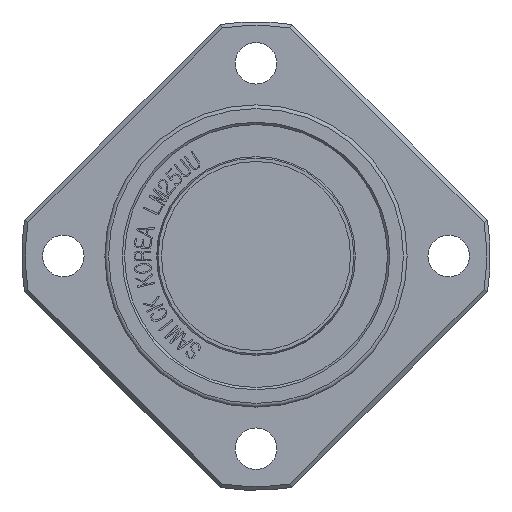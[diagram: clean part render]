
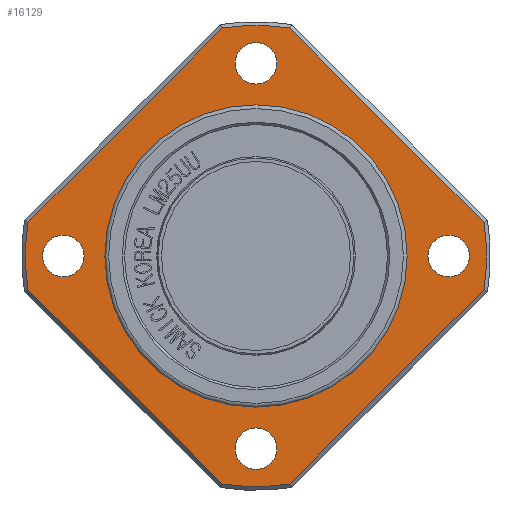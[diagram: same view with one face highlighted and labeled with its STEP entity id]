
A CAD part, front view. The second image highlights one B-rep face of the part: STEP entity #16129.
In plain terms, the highlighted planar face has unit normal (0, -1, 0).
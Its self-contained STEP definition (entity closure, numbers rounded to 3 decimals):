
#2283=FACE_BOUND('',#3334,.T.);
#2284=FACE_BOUND('',#3335,.T.);
#2285=FACE_BOUND('',#3336,.T.);
#2286=FACE_BOUND('',#3337,.T.);
#2287=FACE_BOUND('',#3338,.T.);
#2347=CIRCLE('',#17042,30.5);
#2348=CIRCLE('',#17043,30.5);
#2349=CIRCLE('',#17044,30.5);
#2350=CIRCLE('',#17045,30.5);
#2351=CIRCLE('',#17046,20.);
#2352=CIRCLE('',#17047,20.);
#2353=CIRCLE('',#17048,2.75);
#2354=CIRCLE('',#17049,2.75);
#2355=CIRCLE('',#17050,2.75);
#2356=CIRCLE('',#17051,2.75);
#2443=FACE_OUTER_BOUND('',#3333,.T.);
#3333=EDGE_LOOP('',(#10875,#10876,#10877,#10878,#10879,#10880,#10881,#10882));
#3334=EDGE_LOOP('',(#10883,#10884));
#3335=EDGE_LOOP('',(#10885));
#3336=EDGE_LOOP('',(#10886));
#3337=EDGE_LOOP('',(#10887));
#3338=EDGE_LOOP('',(#10888));
#4286=LINE('',#19339,#5474);
#4287=LINE('',#19347,#5475);
#4288=LINE('',#19351,#5476);
#4289=LINE('',#19355,#5477);
#5474=VECTOR('',#17414,10.);
#5475=VECTOR('',#17419,10.);
#5476=VECTOR('',#17422,10.);
#5477=VECTOR('',#17425,10.);
#6681=VERTEX_POINT('',#19334);
#6682=VERTEX_POINT('',#19338);
#6683=VERTEX_POINT('',#19344);
#6684=VERTEX_POINT('',#19346);
#6685=VERTEX_POINT('',#19348);
#6686=VERTEX_POINT('',#19350);
#6687=VERTEX_POINT('',#19352);
#6688=VERTEX_POINT('',#19354);
#6689=VERTEX_POINT('',#19357);
#6690=VERTEX_POINT('',#19358);
#6691=VERTEX_POINT('',#19361);
#6692=VERTEX_POINT('',#19363);
#6693=VERTEX_POINT('',#19365);
#6694=VERTEX_POINT('',#19367);
#8360=EDGE_CURVE('',#6681,#6682,#4286,.T.);
#8362=EDGE_CURVE('',#6681,#6683,#2347,.T.);
#8363=EDGE_CURVE('',#6684,#6683,#4287,.T.);
#8364=EDGE_CURVE('',#6684,#6685,#2348,.T.);
#8365=EDGE_CURVE('',#6686,#6685,#4288,.T.);
#8366=EDGE_CURVE('',#6686,#6687,#2349,.T.);
#8367=EDGE_CURVE('',#6688,#6687,#4289,.T.);
#8368=EDGE_CURVE('',#6688,#6682,#2350,.T.);
#8369=EDGE_CURVE('',#6689,#6690,#2351,.T.);
#8370=EDGE_CURVE('',#6690,#6689,#2352,.T.);
#8371=EDGE_CURVE('',#6691,#6691,#2353,.T.);
#8372=EDGE_CURVE('',#6692,#6692,#2354,.T.);
#8373=EDGE_CURVE('',#6693,#6693,#2355,.T.);
#8374=EDGE_CURVE('',#6694,#6694,#2356,.T.);
#10875=ORIENTED_EDGE('',*,*,#8360,.F.);
#10876=ORIENTED_EDGE('',*,*,#8362,.T.);
#10877=ORIENTED_EDGE('',*,*,#8363,.F.);
#10878=ORIENTED_EDGE('',*,*,#8364,.T.);
#10879=ORIENTED_EDGE('',*,*,#8365,.F.);
#10880=ORIENTED_EDGE('',*,*,#8366,.T.);
#10881=ORIENTED_EDGE('',*,*,#8367,.F.);
#10882=ORIENTED_EDGE('',*,*,#8368,.T.);
#10883=ORIENTED_EDGE('',*,*,#8369,.F.);
#10884=ORIENTED_EDGE('',*,*,#8370,.F.);
#10885=ORIENTED_EDGE('',*,*,#8371,.T.);
#10886=ORIENTED_EDGE('',*,*,#8372,.T.);
#10887=ORIENTED_EDGE('',*,*,#8373,.T.);
#10888=ORIENTED_EDGE('',*,*,#8374,.T.);
#15882=PLANE('',#17041);
#16129=ADVANCED_FACE('',(#2443,#2283,#2284,#2285,#2286,#2287),#15882,.T.);
#17041=AXIS2_PLACEMENT_3D('',#19343,#17415,#17416);
#17042=AXIS2_PLACEMENT_3D('',#19345,#17417,#17418);
#17043=AXIS2_PLACEMENT_3D('',#19349,#17420,#17421);
#17044=AXIS2_PLACEMENT_3D('',#19353,#17423,#17424);
#17045=AXIS2_PLACEMENT_3D('',#19356,#17426,#17427);
#17046=AXIS2_PLACEMENT_3D('',#19359,#17428,#17429);
#17047=AXIS2_PLACEMENT_3D('',#19360,#17430,#17431);
#17048=AXIS2_PLACEMENT_3D('',#19362,#17432,#17433);
#17049=AXIS2_PLACEMENT_3D('',#19364,#17434,#17435);
#17050=AXIS2_PLACEMENT_3D('',#19366,#17436,#17437);
#17051=AXIS2_PLACEMENT_3D('',#19368,#17438,#17439);
#17414=DIRECTION('',(-0.707,0.,-0.707));
#17415=DIRECTION('center_axis',(0.,-1.,0.));
#17416=DIRECTION('ref_axis',(0.,0.,-1.));
#17417=DIRECTION('center_axis',(0.,-1.,0.));
#17418=DIRECTION('ref_axis',(1.,0.,0.));
#17419=DIRECTION('',(0.707,0.,-0.707));
#17420=DIRECTION('center_axis',(0.,-1.,0.));
#17421=DIRECTION('ref_axis',(1.,0.,0.));
#17422=DIRECTION('',(0.707,0.,0.707));
#17423=DIRECTION('center_axis',(0.,-1.,0.));
#17424=DIRECTION('ref_axis',(1.,0.,0.));
#17425=DIRECTION('',(-0.707,0.,0.707));
#17426=DIRECTION('center_axis',(0.,-1.,0.));
#17427=DIRECTION('ref_axis',(1.,0.,0.));
#17428=DIRECTION('center_axis',(0.,-1.,0.));
#17429=DIRECTION('ref_axis',(1.,0.,0.));
#17430=DIRECTION('center_axis',(0.,-1.,0.));
#17431=DIRECTION('ref_axis',(1.,0.,0.));
#17432=DIRECTION('center_axis',(0.,1.,0.));
#17433=DIRECTION('ref_axis',(1.,0.,0.));
#17434=DIRECTION('center_axis',(0.,1.,0.));
#17435=DIRECTION('ref_axis',(0.,0.,
-1.));
#17436=DIRECTION('center_axis',(0.,1.,0.));
#17437=DIRECTION('ref_axis',(-1.,0.,0.));
#17438=DIRECTION('center_axis',(0.,1.,0.));
#17439=DIRECTION('ref_axis',(0.,0.,
1.));
#19334=CARTESIAN_POINT('',(30.169,21.,-4.479));
#19338=CARTESIAN_POINT('',(4.479,21.,-30.169));
#19339=CARTESIAN_POINT('',(15.843,21.,-18.805));
#19343=CARTESIAN_POINT('Origin',(20.,21.,0.));
#19344=CARTESIAN_POINT('',(30.169,21.,4.479));
#19345=CARTESIAN_POINT('Origin',(0.,21.,0.));
#19346=CARTESIAN_POINT('',(4.479,21.,30.169));
#19347=CARTESIAN_POINT('',(28.805,21.,5.843));
#19348=CARTESIAN_POINT('',(-4.479,21.,30.169));
#19349=CARTESIAN_POINT('Origin',(0.,21.,0.));
#19350=CARTESIAN_POINT('',(-30.169,21.,4.479));
#19351=CARTESIAN_POINT('',(-5.843,21.,28.805));
#19352=CARTESIAN_POINT('',(-30.169,21.,-4.479));
#19353=CARTESIAN_POINT('Origin',(0.,21.,0.));
#19354=CARTESIAN_POINT('',(-4.479,21.,-30.169));
#19355=CARTESIAN_POINT('',(-18.805,21.,-15.843));
#19356=CARTESIAN_POINT('Origin',(0.,21.,0.));
#19357=CARTESIAN_POINT('',(20.,21.,0.));
#19358=CARTESIAN_POINT('',(-20.,21.,0.));
#19359=CARTESIAN_POINT('Origin',(0.,21.,0.));
#19360=CARTESIAN_POINT('Origin',(0.,21.,0.));
#19361=CARTESIAN_POINT('',(22.75,21.,0.));
#19362=CARTESIAN_POINT('Origin',(25.5,21.,0.));
#19363=CARTESIAN_POINT('',(0.,21.,-22.75));
#19364=CARTESIAN_POINT('Origin',(0.,21.,-25.5));
#19365=CARTESIAN_POINT('',(-22.75,21.,0.));
#19366=CARTESIAN_POINT('Origin',(-25.5,21.,0.));
#19367=CARTESIAN_POINT('',(0.,21.,22.75));
#19368=CARTESIAN_POINT('Origin',(0.,21.,25.5));
